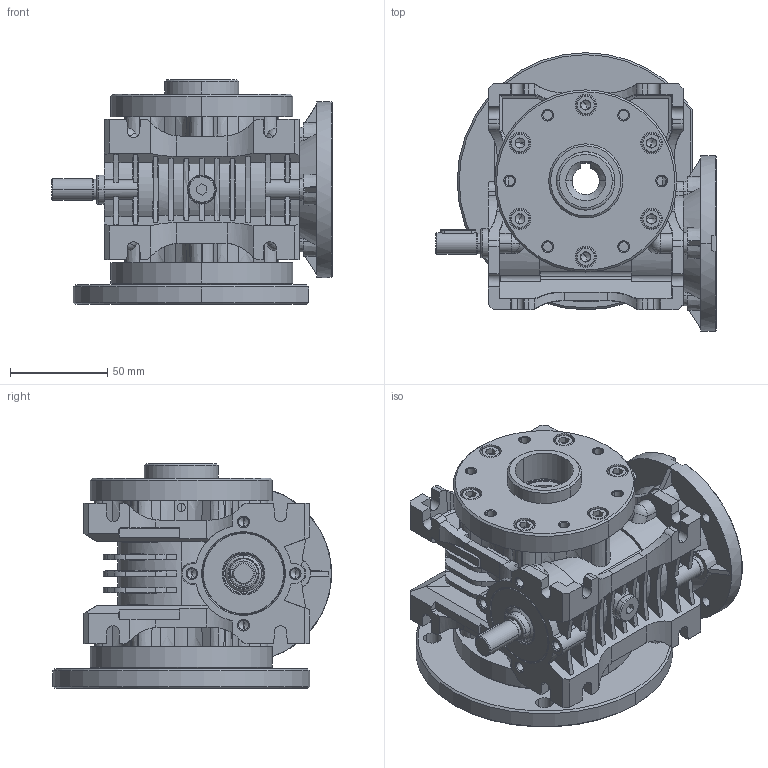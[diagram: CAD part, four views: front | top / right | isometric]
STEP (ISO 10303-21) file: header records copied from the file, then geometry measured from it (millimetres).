
FILE_DESCRIPTION (( 'STEP AP203' ), '1' );
FILE_NAME ('MRP-32_90-11_WBS_SO-1_KM-1.STEP', '2023-10-17T10:38:06', ( '' ), ( '' ), 'SwSTEP 2.0', 'SolidWorks 2022', '' );
FILE_SCHEMA (( 'CONFIG_CONTROL_DESIGN' ));
Products named in the file (1): MRP-32_90-11_WBS_SO-1_KM-1
Bounding box: 144 x 143.11 x 115.5 mm (x, y, z)
Volume: 768754.3 mm3; surface area: 186497.6 mm2
Topology: 1 solids, 60 shells, 2875 faces, 7086 edges, 4353 vertices
Faces by surface type: plane 986, cylinder 683, cone 652, torus 339, bspline 188, sphere 27
Entity records: 91686 total; most frequent: CARTESIAN_POINT 25372, ORIENTED_EDGE 14000, DIRECTION 13928, EDGE_CURVE 7000, AXIS2_PLACEMENT_3D 5471, VERTEX_POINT 4353, EDGE_LOOP 3063, LINE 2986
